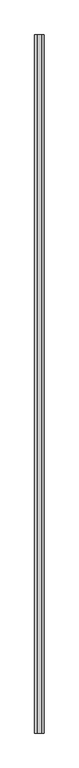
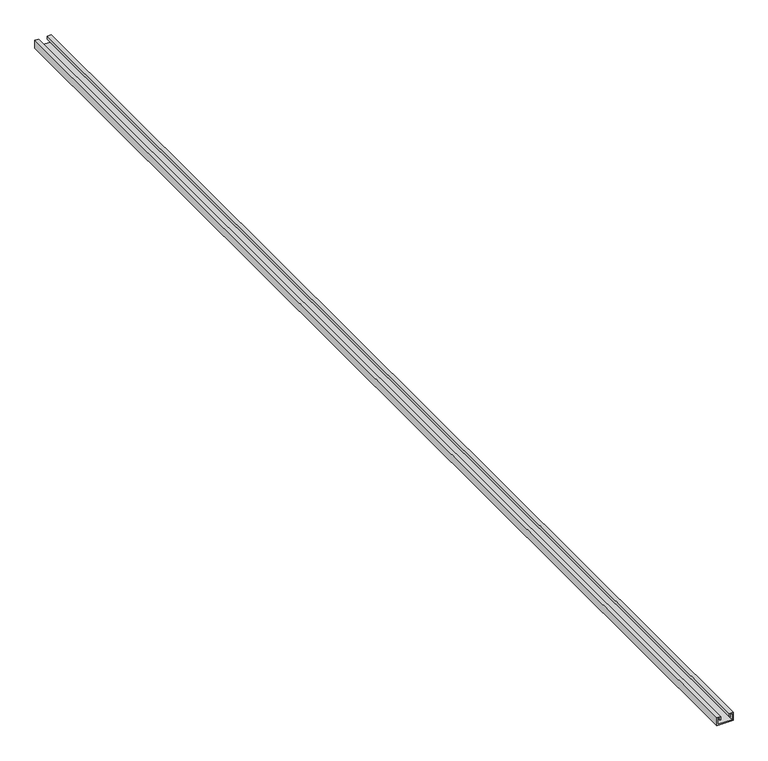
"""IFC4 building model written with IfcOpenShell, lengths in millimetres: proxy geometry, P41_Profile-Basorfix : Basorfix P41 41x21x2.5  D11 3M GC."""

from ifc_helpers import new_model, si_unit, frame, origin, place, context, project, spatial, polyline, outline, extrude, source, transform, mapped, element, save


def generic_models_d9a72575(model_context):
    return source(origin(), model_context, "Body", "SweptSolid", [
        extrude(outline(polyline([(21.0, -20.5), (0.0, -20.5), (0.0, 20.5), (21.0, 20.5), (21.0, 11.0), (12.5, 11.0), (12.5, 13.5), (18.5, 13.5), (18.5, 18.0), (2.5, 18.0), (2.5, -18.0), (18.5, -18.0), (18.5, -13.5), (12.5, -13.5), (12.5, -11.0), (21.0, -11.0), (21.0, -20.5)])), frame((0.0, -1500.0, 0.0), z_axis=(0.0, 1.0, 0.0), x_axis=(0.0, 0.0, 1.0)), (0.0, 0.0, 1.0), 3000.0),
    ])


if __name__ == "__main__":
    model = new_model("IFC4")
    model_context = context("Model", 3, world=origin())
    ifc_project = project(units=[si_unit("LENGTHUNIT", "METRE", prefix="MILLI")], contexts=[model_context])
    site = spatial("IfcSite", under=ifc_project)
    building = spatial("IfcBuilding", under=site)
    placement = place(None, origin())
    generic_models_shape = generic_models_d9a72575(model_context)
    element("IfcBuildingElementProxy", 1, Name="P41_Profile-Basorfix : Basorfix P41 41x21x2.5  D11 3M GC", ObjectType="P41_Profile-Basorfix : Basorfix P41 41x21x2.5  D11 3M GC", at=placement, inside=building, context=model_context, shape_type="MappedRepresentation", body=[
        mapped(generic_models_shape, transform((0.0, 0.0, 0.0), x_axis=(1.0, 0.0, 0.0), y_axis=(0.0, 1.0, 0.0), z_axis=(0.0, 0.0, 1.0))),
    ])
    save(model, "model.ifc")
